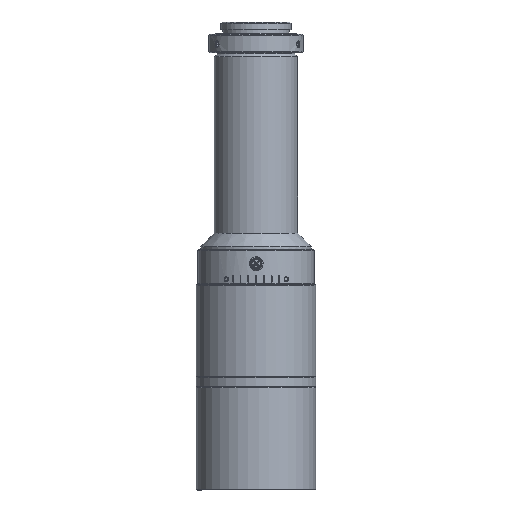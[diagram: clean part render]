
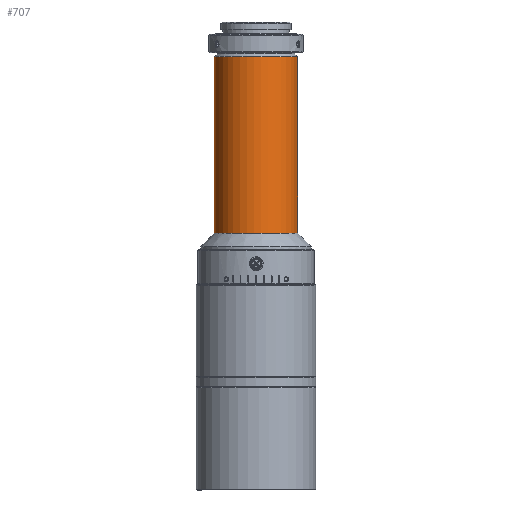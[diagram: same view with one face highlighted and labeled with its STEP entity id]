
A CAD part, front view. The second image highlights one B-rep face of the part: STEP entity #707.
In plain terms, the highlighted cylindrical face has radius 15 mm (diameter 30 mm), a full revolution.
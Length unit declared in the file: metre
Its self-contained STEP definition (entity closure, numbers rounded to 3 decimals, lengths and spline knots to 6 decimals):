
#707=ADVANCED_FACE('NONE',(#1999,#2000),#2001,.T.);
#1999=FACE_OUTER_BOUND('',#4115,.T.);
#2000=FACE_OUTER_BOUND('',#4116,.T.);
#2001=CYLINDRICAL_SURFACE('',#4117,0.015);
#4115=EDGE_LOOP('',(#8566));
#4116=EDGE_LOOP('',(#8567));
#4117=AXIS2_PLACEMENT_3D('',#8568,#8569,#8570);
#8566=ORIENTED_EDGE('',*,*,#12816,.F.);
#8567=ORIENTED_EDGE('',*,*,#12792,.T.);
#8568=CARTESIAN_POINT('',(0.,0.,-0.04721));
#8569=DIRECTION('',(0.,0.,-1.0));
#8570=DIRECTION('',(-0.546,-0.838,0.));
#12792=EDGE_CURVE('NONE',#14506,#14506,#14507,.T.);
#12816=EDGE_CURVE('NONE',#14545,#14545,#14546,.T.);
#14506=VERTEX_POINT('',#17028);
#14507=CIRCLE('',#17029,0.015);
#14545=VERTEX_POINT('',#17067);
#14546=CIRCLE('',#17068,0.015);
#17028=CARTESIAN_POINT('',(-0.008195,-0.012563,0.0283));
#17029=AXIS2_PLACEMENT_3D('',#22583,#22584,#22585);
#17067=CARTESIAN_POINT('',(-0.008195,-0.012563,-0.0352));
#17068=AXIS2_PLACEMENT_3D('',#22628,#22629,#22630);
#22583=CARTESIAN_POINT('',(0.,0.,0.0283));
#22584=DIRECTION('',(0.,0.,-1.0));
#22585=DIRECTION('',(-0.546,-0.838,0.));
#22628=CARTESIAN_POINT('',(0.,0.,-0.0352));
#22629=DIRECTION('',(0.,0.,-1.0));
#22630=DIRECTION('',(-0.546,-0.838,0.));
